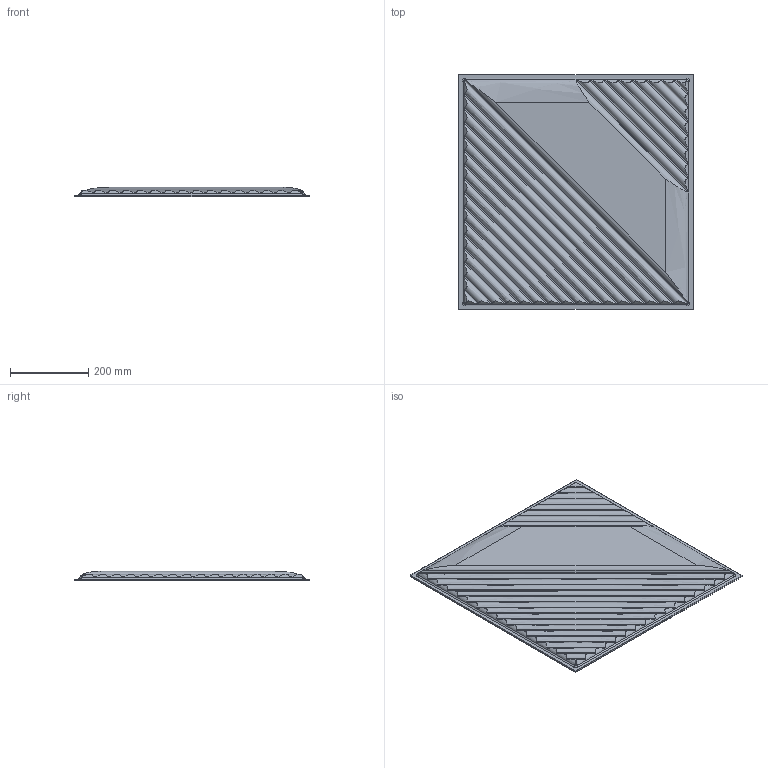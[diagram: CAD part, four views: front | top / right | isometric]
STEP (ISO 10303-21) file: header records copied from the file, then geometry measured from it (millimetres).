
FILE_DESCRIPTION(/* description */ (''),/* implementation_level */ '2;1');
FILE_NAME(/* name */ 'W1B',/* time_stamp */ '2022-12-22T16:18:19+01:00',/* author */ (''),/* organization */ (''),/* preprocessor_version */ 'ST-DEVELOPER v16.5',/* originating_system */ 'Rhino 7.22',/* authorisation */ '');
FILE_SCHEMA (('CONFIG_CONTROL_DESIGN'));
Length unit declared in the file: millimetre
Products named in the file (1): Document
Bounding box: 600 x 600 x 24.5 mm (x, y, z)
Volume: 5816970.4 mm3; surface area: 1499803.7 mm2
Topology: 2 solids, 2 shells, 81 faces, 220 edges, 144 vertices
Faces by surface type: cylinder 34, bspline 32, plane 15
Entity records: 4613 total; most frequent: CARTESIAN_POINT 3124, ORIENTED_EDGE 440, EDGE_CURVE 220, B_SPLINE_CURVE_WITH_KNOTS 171, VERTEX_POINT 144, EDGE_LOOP 82, ADVANCED_FACE 81, FACE_OUTER_BOUND 81
